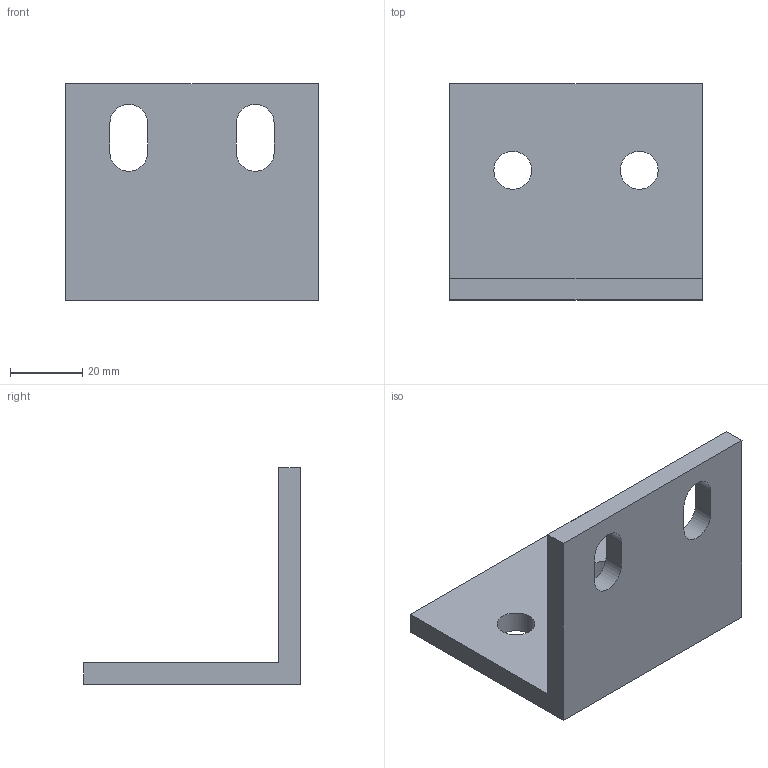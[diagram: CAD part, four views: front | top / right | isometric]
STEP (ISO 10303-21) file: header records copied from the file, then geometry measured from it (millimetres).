
FILE_DESCRIPTION(/* description */ (''),/* implementation_level */ '2;1');
FILE_NAME(/* name */ 'Pos145-Hoeklijn 60x60x6-Aluminium-12st',/* time_stamp */ '2024-08-06T11:49:43+02:00',/* author */ (''),/* organization */ (''),/* preprocessor_version */ 'ST-DEVELOPER v16.5',/* originating_system */ 'HiCAD 2024 2901.2 Build 361',/* authorisation */ '');
FILE_SCHEMA (('AUTOMOTIVE_DESIGN { 1 0 10303 214 1 1 1 1 }'));
Length unit declared in the file: millimetre
Products named in the file (1): Pos145-Hoeklijn 60x60x6-Aluminium-12st
Bounding box: 70 x 60 x 60 mm (x, y, z)
Volume: 44793.8 mm3; surface area: 18123 mm2
Topology: 1 solids, 1 shells, 18 faces, 50 edges, 34 vertices
Faces by surface type: plane 12, cylinder 6
Full cylindrical faces by diameter (mm): 10.5 x2
Entity records: 1048 total; most frequent: CARTESIAN_POINT 96, DIRECTION 94, PRESENTATION_STYLE_ASSIGNMENT 93, COLOUR_RGB 93, DRAUGHTING_PRE_DEFINED_CURVE_FONT 92, CURVE_STYLE 92, OVER_RIDING_STYLED_ITEM 92, ORIENTED_EDGE 92
